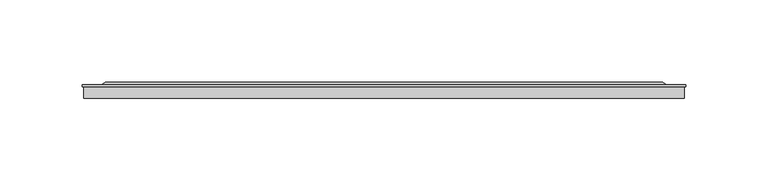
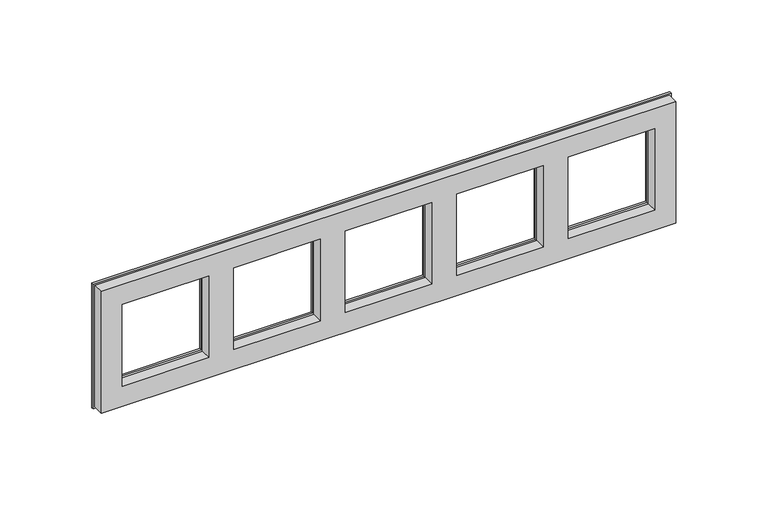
"""IFC4 building model written with IfcOpenShell, lengths in millimetres: proxy geometry, IEK_Brite_Рамка : x5_РУ-5-БрА алюм.."""

from ifc_helpers import new_model, si_unit, frame, origin, place, context, project, spatial, polyline, outline, extrude, faceted_brep, source, transform, mapped, element, save


def electrical_fixtures_5dbdf89e(model_context):
    return source(origin(), model_context, "Body", "SolidModel", [
        extrude(outline(polyline([(41.0, -325.0), (-41.0, -325.0), (-41.0, 41.0), (41.0, 41.0), (41.0, -325.0)]), holes=[polyline([(-27.5, -169.5), (27.5, -169.5), (27.5, -114.5), (-27.5, -114.5), (-27.5, -169.5)]), polyline([(-27.5, -98.5), (27.5, -98.5), (27.5, -43.5), (-27.5, -43.5), (-27.5, -98.5)]), polyline([(-27.5, -27.5), (27.5, -27.5), (27.5, 27.5), (-27.5, 27.5), (-27.5, -27.5)]), polyline([(-27.5, -240.5), (27.5, -240.5), (27.5, -185.5), (-27.5, -185.5), (-27.5, -240.5)]), polyline([(-27.5, -311.5), (27.5, -311.5), (27.5, -256.5), (-27.5, -256.5), (-27.5, -311.5)])]), frame((0.0, 0.0, 0.0), z_axis=(0.0, 1.0, 0.0), x_axis=(0.0, 0.0, 1.0)), (0.0, 0.0, 1.0), 7.0),
        extrude(outline(polyline([(42.0, -326.0), (-42.0, -326.0), (-42.0, 42.0), (42.0, 42.0), (42.0, -326.0)]), holes=[polyline([(-27.5, -169.5), (27.5, -169.5), (27.5, -114.5), (-27.5, -114.5), (-27.5, -169.5)]), polyline([(-27.5, -98.5), (27.5, -98.5), (27.5, -43.5), (-27.5, -43.5), (-27.5, -98.5)]), polyline([(-27.5, -27.5), (27.5, -27.5), (27.5, 27.5), (-27.5, 27.5), (-27.5, -27.5)]), polyline([(-27.5, -240.5), (27.5, -240.5), (27.5, -185.5), (-27.5, -185.5), (-27.5, -240.5)]), polyline([(-27.5, -311.5), (27.5, -311.5), (27.5, -256.5), (-27.5, -256.5), (-27.5, -311.5)])]), frame((0.0, 7.0, 0.0), z_axis=(0.0, 1.0, 0.0), x_axis=(0.0, 0.0, 1.0)), (0.0, 0.0, 1.0), 1.5),
        faceted_brep([(-27.5, 10.0, 27.5), (-27.5, 8.5, 27.5), (-27.5, 8.5, -27.5), (-27.5, 10.0, -27.5), (27.5, 8.5, -27.5), (27.5, 10.0, -27.5), (27.5, 8.5, 27.5), (27.5, 10.0, 27.5), (-314.0, 8.5, 30.0), (-314.0, 8.5, -30.0), (30.0, 8.5, -30.0), (30.0, 8.5, 30.0), (-240.5, 8.5, -27.5), (-240.5, 8.5, 27.5), (-185.5, 8.5, 27.5), (-185.5, 8.5, -27.5), (-169.5, 8.5, -27.5), (-169.5, 8.5, 27.5), (-114.5, 8.5, 27.5), (-114.5, 8.5, -27.5), (-98.5, 8.5, -27.5), (-98.5, 8.5, 27.5), (-43.5, 8.5, 27.5), (-43.5, 8.5, -27.5), (-311.5, 8.5, -27.5), (-311.5, 8.5, 27.5), (-256.5, 8.5, 27.5), (-256.5, 8.5, -27.5), (-312.0, 10.0, 28.0), (28.0, 10.0, 28.0), (28.0, 10.0, -28.0), (-312.0, 10.0, -28.0), (-240.5, 10.0, 27.5), (-240.5, 10.0, -27.5), (-185.5, 10.0, -27.5), (-185.5, 10.0, 27.5), (-169.5, 10.0, 27.5), (-169.5, 10.0, -27.5), (-114.5, 10.0, -27.5), (-114.5, 10.0, 27.5), (-98.5, 10.0, 27.5), (-98.5, 10.0, -27.5), (-43.5, 10.0, -27.5), (-43.5, 10.0, 27.5), (-311.5, 10.0, 27.5), (-311.5, 10.0, -27.5), (-256.5, 10.0, -27.5), (-256.5, 10.0, 27.5)], [[[0, 1, 2, 3]], [[3, 2, 4, 5]], [[5, 4, 6, 7]], [[1, 0, 7, 6]], [[8, 9, 10, 11], [2, 1, 6, 4], [12, 13, 14, 15], [16, 17, 18, 19], [20, 21, 22, 23], [24, 25, 26, 27]], [[28, 29, 30, 31], [0, 3, 5, 7], [32, 33, 34, 35], [36, 37, 38, 39], [40, 41, 42, 43], [44, 45, 46, 47]], [[9, 8, 28, 31]], [[10, 9, 31, 30]], [[11, 10, 30, 29]], [[8, 11, 29, 28]], [[32, 13, 12, 33]], [[33, 12, 15, 34]], [[34, 15, 14, 35]], [[13, 32, 35, 14]], [[36, 17, 16, 37]], [[37, 16, 19, 38]], [[38, 19, 18, 39]], [[17, 36, 39, 18]], [[40, 21, 20, 41]], [[41, 20, 23, 42]], [[42, 23, 22, 43]], [[21, 40, 43, 22]], [[44, 25, 24, 45]], [[45, 24, 27, 46]], [[46, 27, 26, 47]], [[25, 44, 47, 26]]]),
    ])


if __name__ == "__main__":
    model = new_model("IFC4")
    model_context = context("Model", 3, world=origin())
    ifc_project = project(units=[si_unit("LENGTHUNIT", "METRE", prefix="MILLI")], contexts=[model_context])
    site = spatial("IfcSite", under=ifc_project)
    building = spatial("IfcBuilding", under=site)
    placement = place(None, origin())
    electrical_fixtures_shape = electrical_fixtures_5dbdf89e(model_context)
    element("IfcBuildingElementProxy", 1, Name="IEK_Brite_Рамка : x5_РУ-5-БрА алюм.", ObjectType="IEK_Brite_Рамка : x5_РУ-5-БрА алюм.", at=placement, inside=building, context=model_context, shape_type="MappedRepresentation", body=[
        mapped(electrical_fixtures_shape, transform((0.0, 0.0, 0.0), x_axis=(1.0, 0.0, 0.0), y_axis=(0.0, 1.0, 0.0), z_axis=(0.0, 0.0, 1.0))),
    ])
    save(model, "model.ifc")
